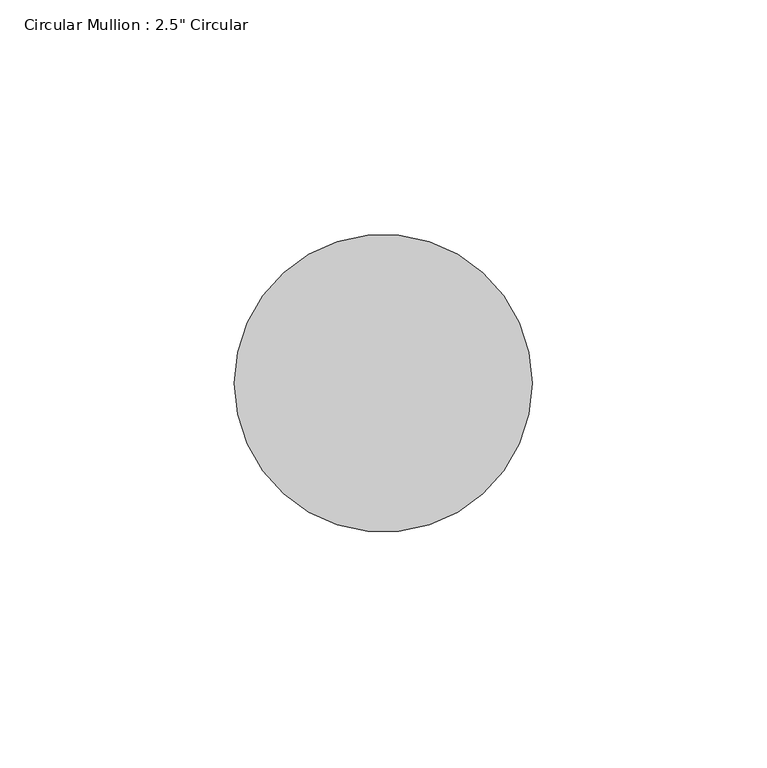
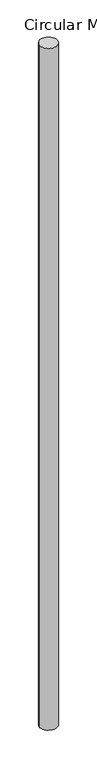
"""IFC4 building model written with IfcOpenShell, lengths in millimetres: member geometry."""

from ifc_helpers import new_model, si_unit, frame, origin, place, context, project, spatial, circle_curve, ellipse_curve, source, transform, mapped, element, save
from ifc_brep_helpers import plane_surface, cylinder_surface, advanced_brep


def member_1881728f(model_context):
    return source(origin(), model_context, "Body", "AdvancedBrep", [
        advanced_brep(
        [(0.0, 0.0, 0.0), (-63.5, 0.0, 0.0), (0.0, 0.0, -2623.6959442), (-63.5, 0.0, -2622.6622229)],
        [
            (0, 1, circle_curve(frame((-31.75, 0.0, 0.0), z_axis=(0.0, 0.0, 1.0), x_axis=(1.0, 0.0, 0.0)), 31.75)),
            (1, 0, circle_curve(frame((-31.75, 0.0, 0.0), z_axis=(0.0, 0.0, 1.0), x_axis=(1.0, 0.0, 0.0)), 31.75)),
            (0, 2),
            (2, 3, ellipse_curve(frame((-31.75, 0.0, -2623.1790836), z_axis=(0.016254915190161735, 0.05197992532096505, 0.998515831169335), x_axis=(-0.2980191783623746, -0.9530049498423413, 0.05446223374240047)), 31.7971924, 31.75)),
            (3, 1),
            (3, 2, ellipse_curve(frame((-31.75, 0.0, -2623.1790836), z_axis=(0.016254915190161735, 0.05197992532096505, 0.998515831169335), x_axis=(-0.2980191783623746, -0.9530049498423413, 0.05446223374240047)), 31.7971924, 31.75)),
        ],
        [
            plane_surface(frame((0.0, -63.5, 0.0), z_axis=(0.0, 0.0, 1.0), x_axis=(-1.0, 0.0, 0.0))),
            cylinder_surface(frame((-31.75, 0.0, 0.0), z_axis=(0.0, 0.0, 1.0), x_axis=(1.0, 0.0, 0.0)), 31.75),
            plane_surface(frame((290.9076648, -90.9712623, -2623.6959442), z_axis=(-0.016254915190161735, -0.05197992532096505, -0.998515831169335), x_axis=(-0.2980191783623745, -0.9530049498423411, 0.054462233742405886))),
        ],
        [
            (0, [[1, 2]]),
            (1, [[-1, 3, 4, 5]]),
            (1, [[-2, -5, 6, -3]]),
            (2, [[-6, -4]]),
        ],
    ),
    ])


if __name__ == "__main__":
    model = new_model("IFC4")
    model_context = context("Model", 3, world=origin())
    ifc_project = project(units=[si_unit("LENGTHUNIT", "METRE", prefix="MILLI")], contexts=[model_context])
    site = spatial("IfcSite", under=ifc_project)
    building = spatial("IfcBuilding", under=site)
    placement = place(None, origin())
    member_shape = member_1881728f(model_context)
    element("IfcMember", 1, ObjectType="Circular Mullion : 2.5\" Circular", at=placement, inside=building, context=model_context, shape_type="MappedRepresentation", body=[
        mapped(member_shape, transform((0.0, 0.0, 0.0), x_axis=(1.0, 0.0, 0.0), y_axis=(0.0, 1.0, 0.0), z_axis=(0.0, 0.0, 1.0))),
    ])
    save(model, "model.ifc")
